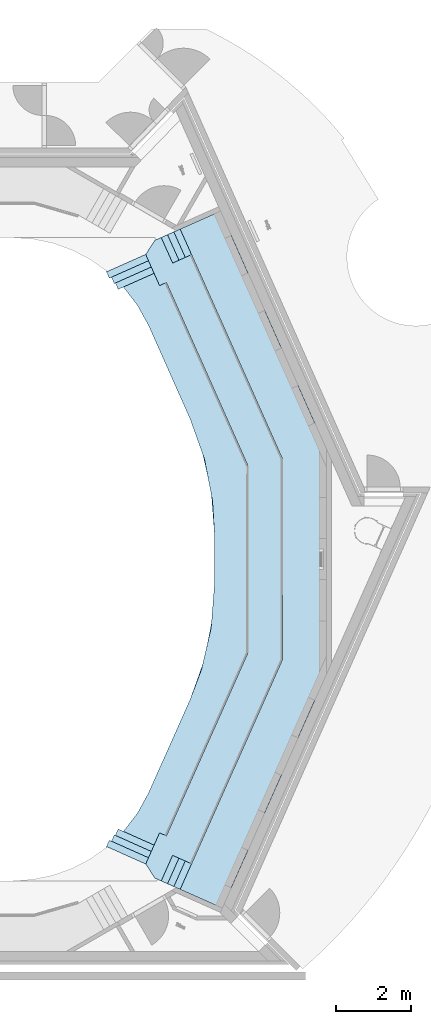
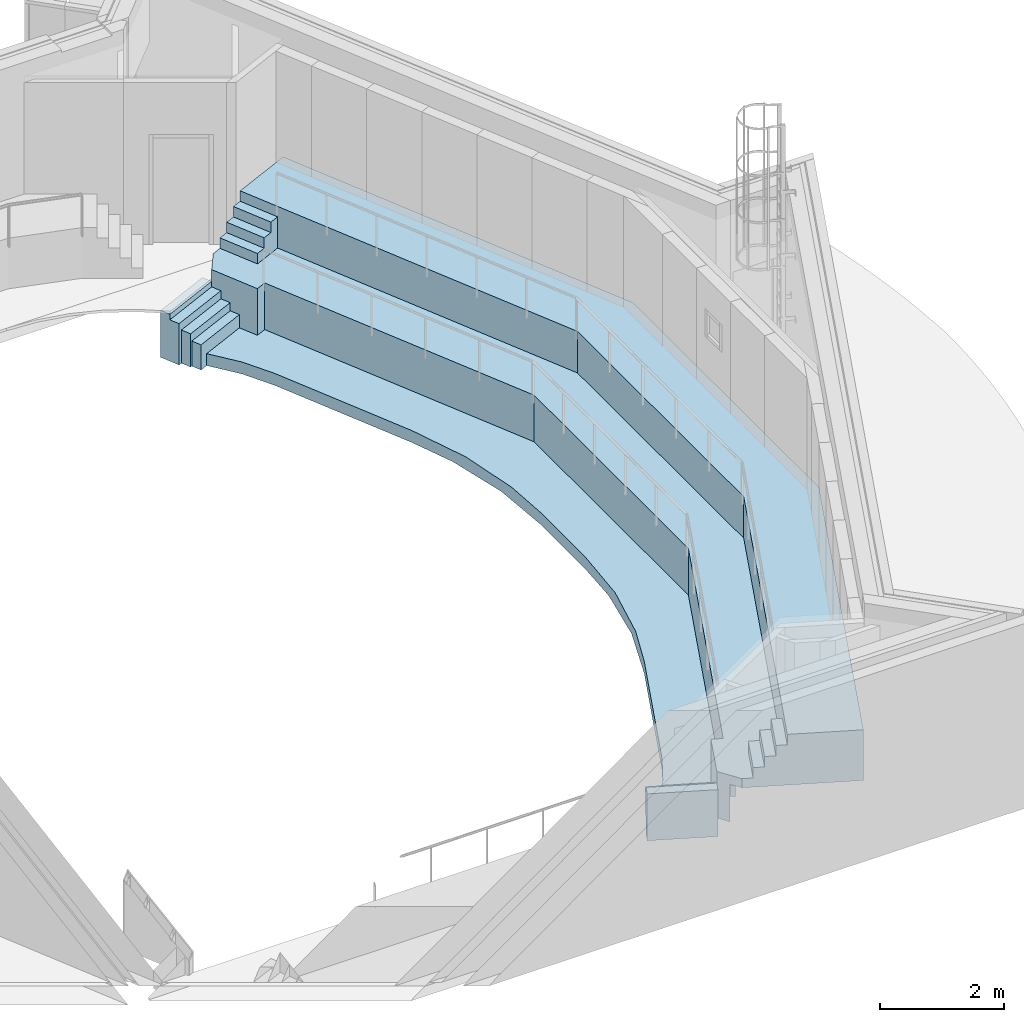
# One storey, part 11 of 16: 1 slab.
"""IFC2X3 building model written with IfcOpenShell, lengths in millimetres."""

from ifc_helpers import new_model, entity, si_unit, converted_unit, derived_unit, direction, frame, origin, place, context, subcontext, project, spatial, faceted_brep, material, type_object, element, save


model = new_model("IFC2X3")

# Units and contexts
model_context = context("Model", 3, precision=0.01, world=origin(), true_north=direction((6.123031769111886e-17, 1.0)))
body_context = subcontext(model_context, "Body", "Model", "MODEL_VIEW")
ifc_project = project(units=[si_unit("LENGTHUNIT", "METRE", prefix="MILLI"), si_unit("AREAUNIT", "SQUARE_METRE"), si_unit("VOLUMEUNIT", "CUBIC_METRE"), converted_unit("PLANEANGLEUNIT", "DEGREE", entity("IfcRatioMeasure", 0.017453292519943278), si_unit("PLANEANGLEUNIT", "RADIAN"), dimensions=[0, 0, 0, 0, 0, 0, 0]), si_unit("MASSUNIT", "GRAM", prefix="KILO"), derived_unit("MASSDENSITYUNIT", [(si_unit("MASSUNIT", "GRAM", prefix="KILO"), 1), (si_unit("LENGTHUNIT", "METRE"), -3)]), derived_unit("MOMENTOFINERTIAUNIT", [(si_unit("LENGTHUNIT", "METRE"), 4)]), si_unit("TIMEUNIT", "SECOND"), si_unit("FREQUENCYUNIT", "HERTZ"), si_unit("THERMODYNAMICTEMPERATUREUNIT", "DEGREE_CELSIUS"), derived_unit("THERMALTRANSMITTANCEUNIT", [(si_unit("MASSUNIT", "GRAM", prefix="KILO"), 1), (si_unit("THERMODYNAMICTEMPERATUREUNIT", "KELVIN"), -1), (si_unit("TIMEUNIT", "SECOND"), -3)]), derived_unit("VOLUMETRICFLOWRATEUNIT", [(si_unit("LENGTHUNIT", "METRE"), 3), (si_unit("TIMEUNIT", "SECOND"), -1)]), derived_unit("MASSFLOWRATEUNIT", [(si_unit("MASSUNIT", "GRAM", prefix="KILO"), 1), (si_unit("TIMEUNIT", "SECOND"), -1)]), derived_unit("ROTATIONALFREQUENCYUNIT", [(si_unit("TIMEUNIT", "SECOND"), -1)]), si_unit("ELECTRICCURRENTUNIT", "AMPERE"), si_unit("ELECTRICVOLTAGEUNIT", "VOLT"), si_unit("POWERUNIT", "WATT"), si_unit("FORCEUNIT", "NEWTON", prefix="KILO"), si_unit("ILLUMINANCEUNIT", "LUX"), si_unit("LUMINOUSFLUXUNIT", "LUMEN"), si_unit("LUMINOUSINTENSITYUNIT", "CANDELA"), derived_unit("USERDEFINED", [(si_unit("MASSUNIT", "GRAM", prefix="KILO"), -1), (si_unit("LENGTHUNIT", "METRE"), -2), (si_unit("TIMEUNIT", "SECOND"), 3), (si_unit("LUMINOUSFLUXUNIT", "LUMEN"), 1)]), derived_unit("SOUNDPOWERUNIT", [(si_unit("MASSUNIT", "GRAM", prefix="KILO"), 1), (si_unit("LENGTHUNIT", "METRE"), 2), (si_unit("TIMEUNIT", "SECOND"), -3)]), derived_unit("SOUNDPRESSUREUNIT", [(si_unit("MASSUNIT", "GRAM", prefix="KILO"), 1), (si_unit("LENGTHUNIT", "METRE"), -1), (si_unit("TIMEUNIT", "SECOND"), -2)]), derived_unit("LINEARVELOCITYUNIT", [(si_unit("LENGTHUNIT", "METRE"), 1), (si_unit("TIMEUNIT", "SECOND"), -1)]), si_unit("PRESSUREUNIT", "PASCAL"), derived_unit("USERDEFINED", [(si_unit("LENGTHUNIT", "METRE"), -2), (si_unit("MASSUNIT", "GRAM", prefix="KILO"), 1), (si_unit("TIMEUNIT", "SECOND"), -2)]), derived_unit("LINEARFORCEUNIT", [(si_unit("MASSUNIT", "GRAM", prefix="KILO"), 1), (si_unit("LENGTHUNIT", "METRE"), 1), (si_unit("TIMEUNIT", "SECOND"), -2), (si_unit("LENGTHUNIT", "METRE"), -1)]), derived_unit("PLANARFORCEUNIT", [(si_unit("MASSUNIT", "GRAM", prefix="KILO"), 1), (si_unit("LENGTHUNIT", "METRE"), 1), (si_unit("TIMEUNIT", "SECOND"), -2), (si_unit("LENGTHUNIT", "METRE"), -2)])], contexts=[model_context])

# Site, building, storey
site_placement = place(None, frame((-10000.0, -10000.0, 0.0)))
site = spatial("IfcSite", under=ifc_project, at=site_placement, Name="Default", CompositionType="ELEMENT")
building_placement = place(site_placement, origin())
building = spatial("IfcBuilding", under=site, at=building_placement, CompositionType="ELEMENT")
storey_placement = place(building_placement, frame((0.0, 0.0, 9000.0)))
storey = spatial("IfcBuildingStorey", under=building, at=storey_placement, Name="02 2e verdieping", CompositionType="ELEMENT", Elevation=9000.0)

# Slab
ifc_material = material(Name="20_APX_ontwerpmateriaal grijs")
slab_type = type_object("IfcSlabType", Name="Balkon midden:Balkon midden", PredefinedType="FLOOR", material=ifc_material)
slab_placement = place(storey_placement, frame((37909.67145065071, 29289.91658532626, -975.0)))
element("IfcSlab", 1, at=slab_placement, inside=storey, type_object=slab_type, Name="Balkon midden:Balkon midden", ObjectType="Balkon midden:Balkon midden", PredefinedType="FLOOR", context=body_context, shape_type="Brep", body=[
    faceted_brep([(1050.7206149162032, 1013.4656398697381, 925.0), (1125.947092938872, 1182.4803627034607, 925.0), (75.24627896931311, 1650.1350164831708, 925.0), (0.0, 1481.1291068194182, 925.0), (1050.7206149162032, 1013.4656398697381, 0.0), (0.0, 1481.1291068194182, 0.0), (75.24627896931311, 1650.1350164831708, 0.0), (1125.947092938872, 1182.4803627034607, 0.0)], [[[0, 1, 2, 3]], [[4, 5, 6, 7]], [[0, 3, 5, 4]], [[3, 2, 6, 5]], [[2, 1, 7, 6]], [[1, 0, 4, 7]]]),
    faceted_brep([(1497.7357675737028, 2017.7947552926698, 975.0), (1125.9470929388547, 1182.4803627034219, 975.0), (1256.1492307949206, 983.4387564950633, 975.0), (1680.4541803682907, 1936.443276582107, 975.0), (1497.7357675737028, 2017.7947552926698, 235.0), (1680.4541803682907, 1936.443276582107, 235.0), (1256.1492307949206, 983.4387564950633, 235.0), (1125.9470929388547, 1182.4803627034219, 235.0)], [[[0, 1, 2, 3]], [[4, 5, 6, 7]], [[0, 3, 5, 4]], [[3, 2, 6, 5]], [[2, 1, 7, 6]], [[1, 0, 4, 7]]]),
    faceted_brep([(1050.7206149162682, 17683.701188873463, 925.0), (0.0, 17216.037721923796, 925.0), (75.24627896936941, 17047.031812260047, 925.0), (1125.9470929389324, 17514.686466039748, 925.0), (1050.720614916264, 17683.701188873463, 0.0), (1125.9470929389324, 17514.686466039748, 0.0), (75.24627896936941, 17047.031812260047, 0.0), (0.0, 17216.037721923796, 0.0)], [[[0, 1, 2, 3]], [[4, 5, 6, 7]], [[1, 0, 4, 7]], [[2, 1, 7, 6]], [[3, 2, 6, 5]], [[0, 3, 5, 4]]]),
    faceted_brep([(1497.7357675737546, 16679.37207345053, 975.0), (1680.4541803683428, 16760.723552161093, 975.0), (1256.1492307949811, 17713.728072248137, 975.0), (1125.9470929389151, 17514.686466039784, 975.0), (1497.7357675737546, 16679.37207345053, 235.0), (1125.9470929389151, 17514.686466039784, 235.0), (1256.1492307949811, 17713.728072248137, 235.0), (1680.4541803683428, 16760.723552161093, 235.0)], [[[0, 1, 2, 3]], [[4, 5, 6, 7]], [[1, 0, 4, 7]], [[2, 1, 7, 6]], [[3, 2, 6, 5]], [[0, 3, 5, 4]]]),
    faceted_brep([(2049.4323555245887, 18193.890870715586, 1975.0), (4790.328549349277, 12037.73722595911, 1975.0), (4790.328549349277, 6659.429602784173, 1975.0), (2049.4380501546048, 503.2887483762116, 1975.0), (3180.199592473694, 0.0, 1975.0), (5975.328549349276, 6277.962424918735, 1975.0), (5975.328549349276, 12289.616751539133, 1975.0), (3132.0401896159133, 18675.74696628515, 1975.0), (2049.4323555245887, 18193.890870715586, 975.0), (2354.490534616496, 17508.71898229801, 975.0), (2354.4905346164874, 17508.71898229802, 1155.0), (4790.328549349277, 12037.737225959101, 1155.0), (5975.328549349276, 12289.616751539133, 975.0), (3132.0401896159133, 18675.74696628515, 975.0), (4790.328549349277, 6659.429602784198, 1155.0), (2049.4380501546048, 503.2887483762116, 975.0), (3180.199592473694, 0.0, 975.0), (5975.328549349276, 6277.962424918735, 975.0), (2354.4843361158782, 1188.4339243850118, 1155.0), (1847.4525576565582, 17283.025623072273, 1155.0), (1542.3938746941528, 17968.19864320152, 1155.0), (1373.387965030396, 17892.952364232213, 1155.0), (1125.9470929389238, 17514.6864660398, 1155.0), (1497.735767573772, 16679.37207345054, 1155.0), (1680.4541803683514, 16760.723552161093, 1155.0), (3870.3285493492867, 11842.18518922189, 1155.0), (3870.328549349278, 6854.981639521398, 1155.0), (1680.4541803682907, 1936.4432765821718, 1155.0), (1497.73576757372, 2017.794755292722, 1155.0), (1125.9470929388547, 1182.4803627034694, 1155.0), (1373.3879650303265, 804.2144645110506, 1155.0), (1542.3938746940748, 728.9681855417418, 1155.0), (1847.446359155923, 1414.127283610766, 1155.0), (2354.484336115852, 1188.4339243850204, 975.0), (1847.446359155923, 1414.127283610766, 975.0), (1542.3938746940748, 728.9681855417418, 975.0), (1373.3879650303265, 804.2144645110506, 975.0), (1125.9470929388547, 1182.4803627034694, 975.0), (1497.73576757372, 2017.794755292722, 975.0), (1680.4541803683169, 1936.443276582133, 975.0), (1863.163271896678, 1855.0959479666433, 975.0), (4070.3285493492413, 6812.470327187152, 975.0), (4070.328549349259, 11884.696501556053, 975.0), (1863.1632718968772, 16842.070880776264, 975.0), (1680.4541803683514, 16760.723552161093, 975.0), (1497.735767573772, 16679.37207345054, 975.0), (1125.9470929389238, 17514.6864660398, 975.0), (1373.387965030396, 17892.952364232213, 975.0), (1542.3938746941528, 17968.19864320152, 975.0), (1847.4525576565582, 17283.025623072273, 975.0), (528.0618841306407, 16641.714505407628, 235.0), (904.4339567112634, 16152.967115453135, 235.0), (1201.1812382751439, 15612.161236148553, 235.0), (2316.9187618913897, 13106.171790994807, 235.0), (2508.684197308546, 12568.711530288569, 235.0), (2700.449632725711, 12031.251269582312, 235.0), (2808.445207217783, 11470.917021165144, 235.0), (2916.44078170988, 10910.58277274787, 235.0), (2965.3285493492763, 10055.647288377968, 235.0), (2965.327761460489, 8641.519540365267, 235.0), (2921.9094216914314, 8072.527131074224, 235.0), (2878.4910819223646, 7503.534721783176, 235.0), (2749.2414772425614, 6947.7181569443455, 235.0), (2619.9918725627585, 6391.901592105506, 235.0), (2316.918761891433, 5590.995037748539, 235.0), (1201.1253342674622, 3084.8819672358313, 235.0), (904.3968333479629, 2544.14293320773, 235.0), (528.061884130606, 2055.452323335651, 235.0), (1351.3105760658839, 1688.9183905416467, 235.0), (1497.7357675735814, 2017.7947552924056, 235.0), (1680.454180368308, 1936.4432765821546, 235.0), (3870.328549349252, 6854.98163952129, 235.0), (3870.328549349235, 11842.185189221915, 235.0), (1680.4541803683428, 16760.723552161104, 235.0), (1497.7357675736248, 16679.37207345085, 235.0), (1351.3105760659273, 17008.24843820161, 235.0), (1497.7357675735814, 2017.7947552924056, 0.0), (1351.3105760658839, 1688.9183905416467, 0.0), (528.061884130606, 2055.452323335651, 0.0), (904.3968333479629, 2544.14293320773, 0.0), (1201.1253342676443, 3084.8819672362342, 0.0), (2316.918761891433, 5590.995037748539, 0.0), (2508.6841973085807, 6128.455298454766, 0.0), (2700.4496327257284, 6665.915559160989, 0.0), (2808.4452072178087, 7226.249807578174, 0.0), (2916.4407817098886, 7786.584055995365, 0.0), (2965.3285493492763, 8641.519540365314, 0.0), (2965.3277614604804, 10055.647288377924, 0.0), (2921.909421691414, 10624.639697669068, 0.0), (2878.491081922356, 11193.63210696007, 0.0), (2749.2414772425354, 11749.44867179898, 0.0), (2619.991872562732, 12305.265236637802, 0.0), (2316.9194816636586, 13106.172111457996, 0.0), (1201.1812382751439, 15612.161236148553, 0.0), (904.4339567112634, 16152.967115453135, 0.0), (528.0618841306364, 16641.714505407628, 0.0), (1351.3105760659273, 17008.24843820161, 0.0), (1497.7357675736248, 16679.37207345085, 0.0), (1863.1632718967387, 16842.07088077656, 0.0), (4070.328549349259, 11884.696501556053, 0.0), (4070.3285493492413, 6812.470327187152, 0.0), (1863.163271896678, 1855.0959479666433, 0.0)], [[[0, 1, 2, 3, 4, 5, 6, 7]], [[1, 0, 8, 9, 10, 11]], [[7, 6, 12, 13]], [[0, 7, 13, 8]], [[2, 1, 11, 14]], [[4, 3, 15, 16]], [[5, 4, 16, 17]], [[6, 5, 17, 12]], [[18, 14, 11, 10, 19, 20, 21, 22, 23, 24, 25, 26, 27, 28, 29, 30, 31, 32]], [[9, 8, 13, 12, 17, 16, 15, 33, 34, 35, 36, 37, 38, 39, 40, 41, 42, 43, 44, 45, 46, 47, 48, 49]], [[19, 10, 9, 49]], [[50, 51, 52, 53, 54, 55, 56, 57, 58, 59, 60, 61, 62, 63, 64, 65, 66, 67, 68, 69, 70, 71, 72, 73, 74, 75]], [[76, 77, 78, 79, 80, 81, 82, 83, 84, 85, 86, 87, 88, 89, 90, 91, 92, 93, 94, 95, 96, 97, 98, 99, 100, 101]], [[53, 52, 92]], [[93, 92, 52]], [[59, 58, 87]], [[87, 86, 59]], [[65, 64, 81, 80]], [[20, 19, 49, 48]], [[21, 20, 48, 47]], [[23, 22, 46, 45]], [[24, 23, 45, 44]], [[22, 21, 47, 46]], [[91, 54, 92]], [[91, 55, 54]], [[56, 90, 89]], [[89, 57, 56]], [[53, 92, 54]], [[56, 55, 90]], [[57, 89, 88]], [[57, 88, 58]], [[87, 58, 88]], [[55, 91, 90]], [[85, 60, 86]], [[59, 86, 60]], [[62, 84, 83]], [[83, 63, 62]], [[62, 61, 84]], [[61, 85, 84]], [[63, 82, 64]], [[63, 83, 82]], [[81, 64, 82]], [[85, 61, 60]], [[3, 2, 14, 18, 33, 15]], [[28, 27, 39, 38]], [[29, 28, 38, 37]], [[30, 29, 37, 36]], [[31, 30, 36, 35]], [[32, 31, 35, 34]], [[18, 32, 34, 33]], [[80, 79, 66, 65]], [[78, 67, 66, 79]], [[68, 67, 78, 77]], [[69, 68, 77, 76]], [[40, 39, 70, 69, 76, 101]], [[43, 98, 97, 74, 73, 44]], [[75, 74, 97, 96]], [[50, 75, 96, 95]], [[95, 94, 51, 50]], [[93, 52, 51, 94]], [[26, 25, 72, 71]], [[27, 26, 71, 70, 39]], [[41, 40, 101, 100]], [[42, 41, 100, 99]], [[43, 42, 99, 98]], [[25, 24, 44, 73, 72]]]),
    faceted_brep([(1711.4262308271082, 18043.385522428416, 1360.0), (1542.4115056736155, 17968.15904337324, 1360.0), (1847.4463590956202, 17283.039545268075, 1360.0), (2016.4610842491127, 17358.26602432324, 1360.0), (1711.4262308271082, 18043.385522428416, 975.0), (2016.4610842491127, 17358.26602432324, 975.0), (1847.4463590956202, 17283.039545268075, 975.0), (1542.4115056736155, 17968.15904337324, 975.0)], [[[0, 1, 2, 3]], [[4, 5, 6, 7]], [[1, 0, 4, 7]], [[2, 1, 7, 6]], [[3, 2, 6, 5]], [[0, 3, 5, 4]]]),
    faceted_brep([(1880.4233250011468, 18118.651601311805, 1565.0), (1711.4085998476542, 18043.42512225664, 1565.0), (2016.4610842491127, 17358.26602432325, 1565.0), (2185.4758094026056, 17433.492503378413, 1565.0), (1880.4233250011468, 18118.651601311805, 975.0), (2185.4758094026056, 17433.492503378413, 975.0), (2016.4610842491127, 17358.26602432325, 975.0), (1711.4085998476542, 18043.42512225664, 975.0)], [[[0, 1, 2, 3]], [[4, 5, 6, 7]], [[1, 0, 4, 7]], [[2, 1, 7, 6]], [[3, 2, 6, 5]], [[0, 3, 5, 4]]]),
    faceted_brep([(2049.438050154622, 18193.87808036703, 1770.0), (1880.4233250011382, 18118.65160131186, 1770.0), (2185.4758094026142, 17433.492503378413, 1770.0), (2354.4905345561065, 17508.718982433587, 1770.0), (2049.438050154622, 18193.87808036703, 975.0), (2354.4905345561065, 17508.718982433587, 975.0), (2185.4758094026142, 17433.492503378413, 975.0), (1880.4233250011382, 18118.65160131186, 975.0)], [[[0, 1, 2, 3]], [[4, 5, 6, 7]], [[1, 0, 4, 7]], [[2, 1, 7, 6]], [[3, 2, 6, 5]], [[0, 3, 5, 4]]]),
    faceted_brep([(1125.9470929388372, 1182.4803627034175, 815.0), (1201.1735709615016, 1351.49508553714, 815.0), (150.47275699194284, 1819.1497393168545, 815.0), (75.22647802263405, 1650.1438296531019, 815.0), (1125.9470929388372, 1182.4803627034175, 335.0), (75.22647802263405, 1650.1438296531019, 335.0), (150.47275699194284, 1819.1497393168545, 335.0), (1201.1735709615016, 1351.49508553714, 335.0)], [[[0, 1, 2, 3]], [[4, 5, 6, 7]], [[0, 3, 5, 4]], [[3, 2, 6, 5]], [[2, 1, 7, 6]], [[1, 0, 4, 7]]]),
    faceted_brep([(1201.1735709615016, 1351.4950855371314, 655.0), (1276.400048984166, 1520.5098083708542, 655.0), (283.39468761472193, 1962.4848904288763, 655.0), (208.14840864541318, 1793.4789807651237, 655.0), (1201.1735709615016, 1351.4950855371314, 335.0), (208.14840864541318, 1793.4789807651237, 335.0), (283.39468761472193, 1962.4848904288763, 335.0), (1276.400048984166, 1520.5098083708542, 335.0)], [[[0, 1, 2, 3]], [[4, 5, 6, 7]], [[0, 3, 5, 4]], [[3, 2, 6, 5]], [[2, 1, 7, 6]], [[1, 0, 4, 7]]]),
    faceted_brep([(1276.4000489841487, 1520.5098083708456, 495.0), (1351.6265270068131, 1689.5245312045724, 495.0), (387.7559404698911, 2118.532065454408, 495.0), (312.5096615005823, 1949.5261557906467, 495.0), (1276.4000489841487, 1520.5098083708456, 335.0), (312.5096615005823, 1949.5261557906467, 335.0), (387.7559404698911, 2118.532065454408, 335.0), (1351.6265270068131, 1689.5245312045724, 335.0)], [[[0, 1, 2, 3]], [[4, 5, 6, 7]], [[0, 3, 5, 4]], [[3, 2, 6, 5]], [[2, 1, 7, 6]], [[1, 0, 4, 7]]]),
    faceted_brep([(1711.4262308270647, 653.7813063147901, 1360.0), (2016.4610842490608, 1338.9008044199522, 1360.0), (1847.4463590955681, 1414.1272834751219, 1360.0), (1542.4115056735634, 729.0077853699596, 1360.0), (1711.4262308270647, 653.7813063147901, 975.0), (1542.4115056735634, 729.0077853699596, 975.0), (1847.4463590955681, 1414.1272834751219, 975.0), (2016.4610842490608, 1338.9008044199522, 975.0)], [[[0, 1, 2, 3]], [[4, 5, 6, 7]], [[0, 3, 5, 4]], [[3, 2, 6, 5]], [[2, 1, 7, 6]], [[1, 0, 4, 7]]]),
    faceted_brep([(1880.4233250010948, 578.515227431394, 1565.0), (2185.475809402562, 1263.6743253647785, 1565.0), (2016.4610842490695, 1338.900804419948, 1565.0), (1711.4085998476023, 653.7417064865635, 1565.0), (1880.4233250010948, 578.515227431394, 975.0), (1711.4085998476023, 653.7417064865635, 975.0), (2016.4610842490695, 1338.900804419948, 975.0), (2185.475809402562, 1263.6743253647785, 975.0)], [[[0, 1, 2, 3]], [[4, 5, 6, 7]], [[0, 3, 5, 4]], [[3, 2, 6, 5]], [[2, 1, 7, 6]], [[1, 0, 4, 7]]]),
    faceted_brep([(2049.43805015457, 503.2887483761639, 1770.0), (2354.4905345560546, 1188.4478463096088, 1770.0), (2185.4758094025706, 1263.6743253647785, 1770.0), (1880.4233250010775, 578.5152274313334, 1770.0), (2049.43805015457, 503.2887483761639, 975.0), (1880.4233250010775, 578.5152274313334, 975.0), (2185.4758094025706, 1263.6743253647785, 975.0), (2354.4905345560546, 1188.4478463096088, 975.0)], [[[0, 1, 2, 3]], [[4, 5, 6, 7]], [[0, 3, 5, 4]], [[3, 2, 6, 5]], [[2, 1, 7, 6]], [[1, 0, 4, 7]]]),
    faceted_brep([(1125.9470929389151, 17514.686466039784, 815.0), (75.22647802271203, 17047.022999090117, 815.0), (150.47275699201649, 16878.01708942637, 815.0), (1201.1735709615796, 17345.67174320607, 815.0), (1125.9470929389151, 17514.686466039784, 0.0), (1201.1735709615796, 17345.67174320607, 0.0), (150.47275699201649, 16878.01708942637, 0.0), (75.22647802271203, 17047.022999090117, 0.0)], [[[0, 1, 2, 3]], [[4, 5, 6, 7]], [[1, 0, 4, 7]], [[2, 1, 7, 6]], [[3, 2, 6, 5]], [[0, 3, 5, 4]]]),
    faceted_brep([(1201.1735709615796, 17345.67174320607, 655.0), (208.1484086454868, 16903.687847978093, 655.0), (283.3946876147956, 16734.681938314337, 655.0), (1276.400048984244, 17176.657020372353, 655.0), (1201.1735709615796, 17345.67174320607, 0.0), (1276.400048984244, 17176.657020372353, 0.0), (283.3946876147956, 16734.681938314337, 0.0), (208.1484086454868, 16903.687847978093, 0.0)], [[[0, 1, 2, 3]], [[4, 5, 6, 7]], [[1, 0, 4, 7]], [[2, 1, 7, 6]], [[3, 2, 6, 5]], [[0, 3, 5, 4]]]),
    faceted_brep([(1276.4000489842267, 17176.657020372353, 495.0), (312.5096615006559, 16747.640672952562, 495.0), (387.75594046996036, 16578.634763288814, 495.0), (1351.6265270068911, 17007.64229753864, 495.0), (1276.4000489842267, 17176.657020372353, 0.0), (1351.6265270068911, 17007.64229753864, 0.0), (387.75594046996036, 16578.634763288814, 0.0), (312.5096615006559, 16747.640672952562, 0.0)], [[[0, 1, 2, 3]], [[4, 5, 6, 7]], [[1, 0, 4, 7]], [[2, 1, 7, 6]], [[3, 2, 6, 5]], [[0, 3, 5, 4]]]),
])

save(model, "model.ifc")
